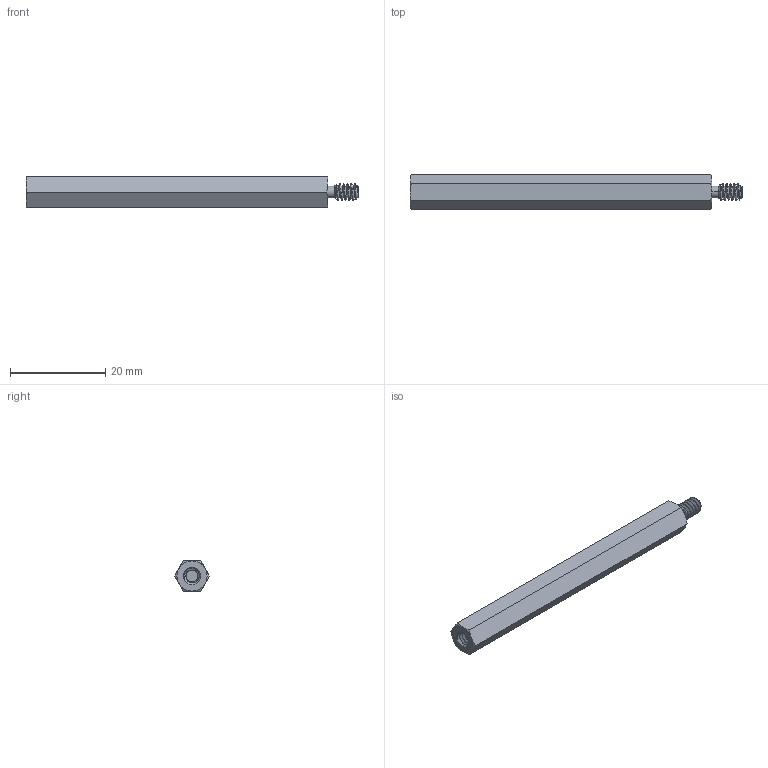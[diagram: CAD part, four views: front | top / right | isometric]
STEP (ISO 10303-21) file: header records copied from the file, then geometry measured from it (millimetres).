
FILE_DESCRIPTION (( 'STEP AP203' ), '1' );
FILE_NAME ('93505A009_Male-Female Threaded Hex Standoff.STEP', '2021-07-10T01:20:51', ( 'Administrator' ), ( 'Managed by Terraform' ), 'SwSTEP 2.0', 'SolidWorks 2017', '' );
FILE_SCHEMA (( 'CONFIG_CONTROL_DESIGN' ));
Length unit declared in the file: inch
Products named in the file (1): 93505A009_Male-Female Threaded Hex Standoff
Bounding box: 69.85 x 7.33 x 6.35 mm (x, y, z)
Volume: 2188.4 mm3; surface area: 1706.5 mm2
Topology: 1 solids, 1 shells, 73 faces, 190 edges, 121 vertices
Faces by surface type: cylinder 38, cone 18, plane 11, bspline 6
Entity records: 5341 total; most frequent: CARTESIAN_POINT 3774, ORIENTED_EDGE 380, DIRECTION 240, EDGE_CURVE 190, VERTEX_POINT 121, AXIS2_PLACEMENT_3D 94, EDGE_LOOP 75, FACE_OUTER_BOUND 73
